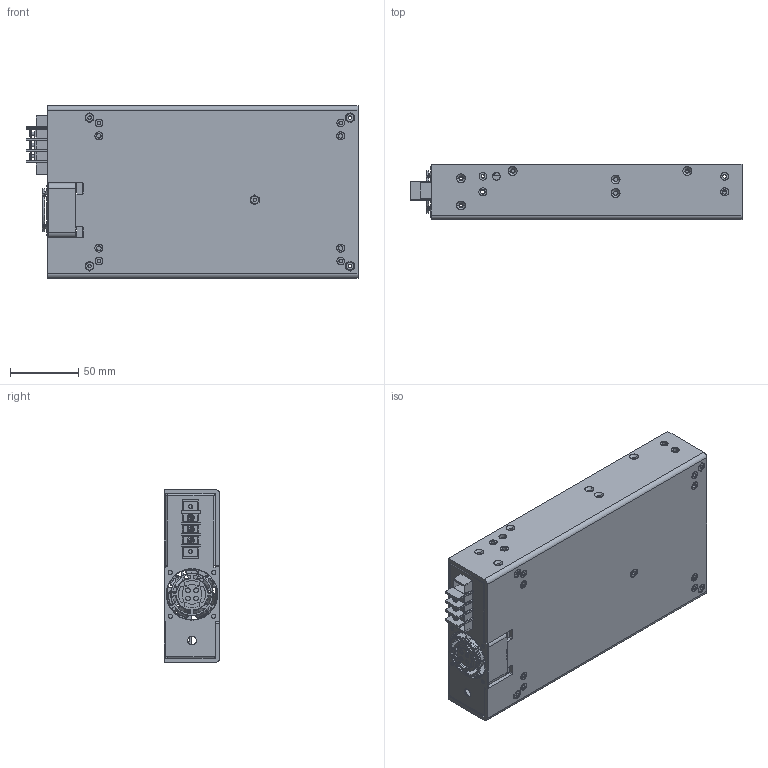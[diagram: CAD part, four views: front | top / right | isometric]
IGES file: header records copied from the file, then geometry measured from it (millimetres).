
Start section: SolidWorks IGES file using analytic representation for surfaces
Global section: file name: Z:\¾÷ºc¹Ï\2013\PRL1301\SW\PRL1301E_2.IGS; native system: SolidWorks 2010; preprocessor: SolidWorks 2010; author: Leo; date: 170904.145304; units: millimetre
Bounding box: 244.1 x 40.64 x 127 mm (x, y, z)
Surface area: 238654.5 mm2 (no closed solid volume)
Topology: 0 solids, 0 shells, 1774 faces, 21720 edges, 21717 vertices
Faces by surface type: bspline 1182, revolution 592
